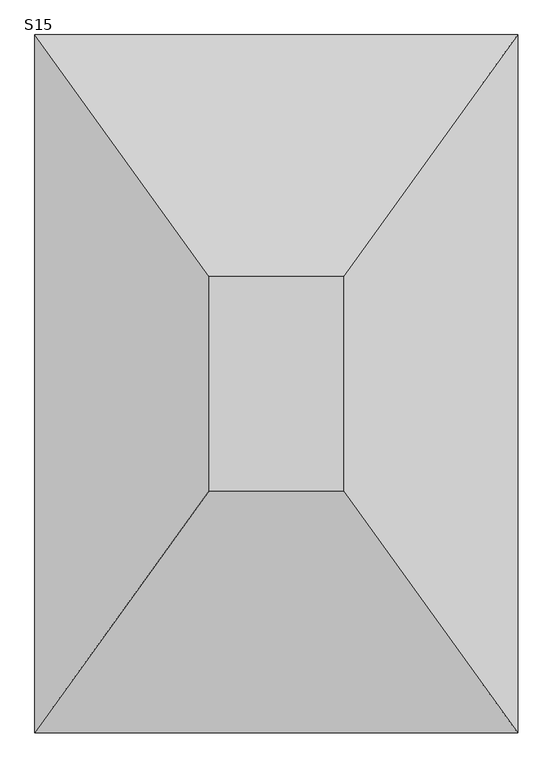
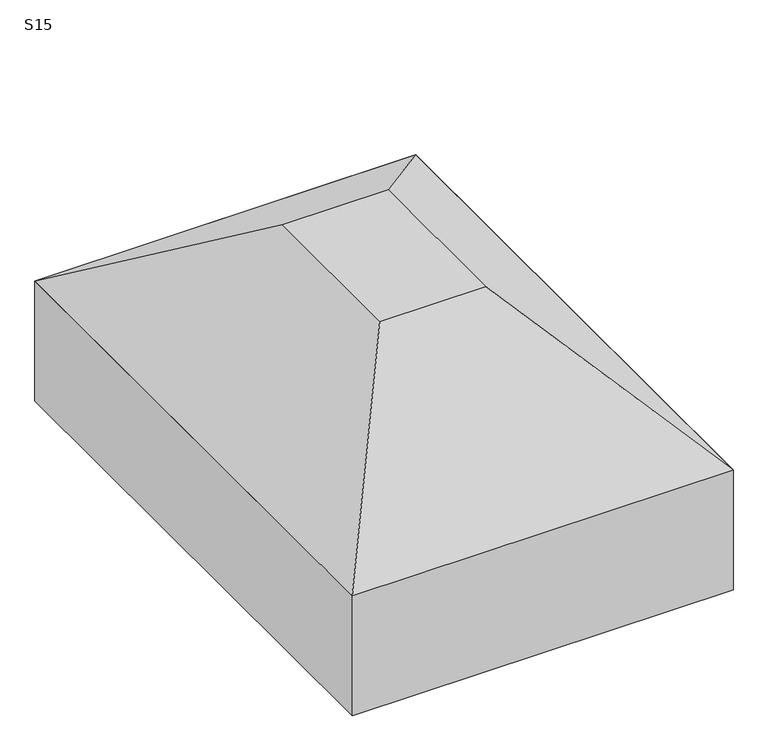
"""IFC4 building model written with IfcOpenShell, lengths in millimetres: fastener geometry, TQS - Sapata : S15."""

from ifc_helpers import new_model, si_unit, frame, origin, place, context, project, spatial, polyline, outline, extrude, faceted_brep, source, transform, mapped, element, save


def s15_ff27a8e9(model_context):
    return source(origin(), model_context, "Body", "SolidModel", [
        faceted_brep([(-75.0, 0.0, 0.0), (-325.0, 0.0, 0.0), (-325.0, -400.0, 0.0), (-75.0, -400.0, 0.0), (250.0, 450.0, -300.0), (250.0, -850.0, -300.0), (-650.0, -850.0, -300.0), (-650.0, 450.0, -300.0)], [[[0, 1, 2, 3]], [[4, 5, 6, 7]], [[4, 7, 1, 0]], [[7, 6, 2, 1]], [[6, 5, 3, 2]], [[5, 4, 0, 3]]]),
        extrude(outline(polyline([(250.0, 450.0), (250.0, -850.0), (-650.0, -850.0), (-650.0, 450.0), (250.0, 450.0)])), frame((0.0, 0.0, -600.0), z_axis=(0.0, 0.0, 1.0), x_axis=(1.0, 0.0, 0.0)), (0.0, 0.0, 1.0), 300.0),
    ])


if __name__ == "__main__":
    model = new_model("IFC4")
    model_context = context("Model", 3, world=origin())
    ifc_project = project(units=[si_unit("LENGTHUNIT", "METRE", prefix="MILLI")], contexts=[model_context])
    site = spatial("IfcSite", under=ifc_project)
    building = spatial("IfcBuilding", under=site)
    placement = place(None, origin())
    s15_shape = s15_ff27a8e9(model_context)
    element("IfcFastener", 1, ObjectType="TQS - Sapata : S15", at=placement, inside=building, context=model_context, shape_type="MappedRepresentation", body=[
        mapped(s15_shape, transform((0.0, 0.0, 0.0), x_axis=(1.0, 0.0, 0.0), y_axis=(0.0, 1.0, 0.0), z_axis=(0.0, 0.0, 1.0))),
    ])
    save(model, "model.ifc")
